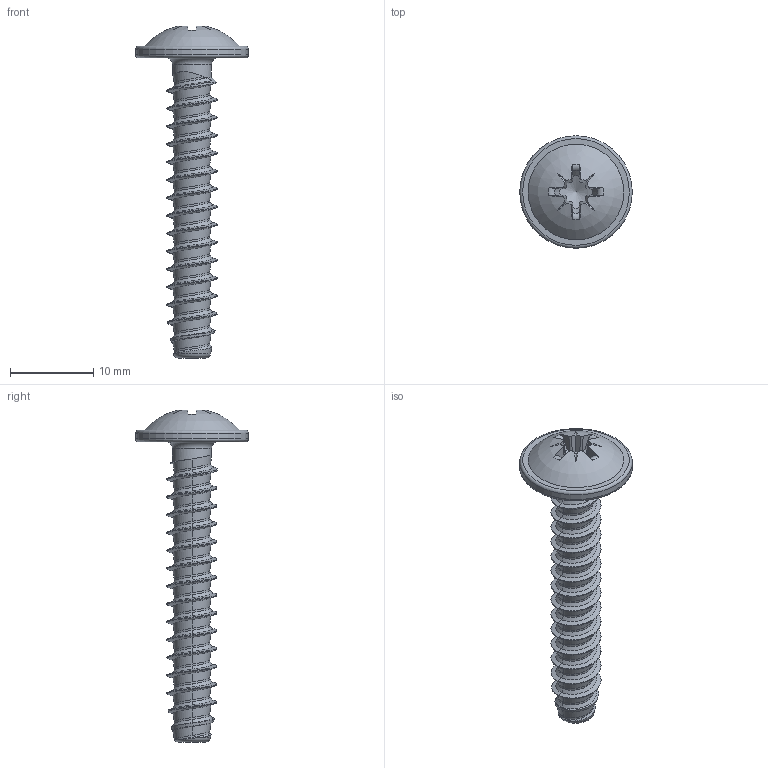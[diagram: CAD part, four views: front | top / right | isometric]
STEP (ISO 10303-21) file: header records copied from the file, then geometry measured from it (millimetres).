
FILE_DESCRIPTION(/* description */ (''),/* implementation_level */ '2;1');
FILE_NAME(/* name */ 'KN6031-STSplus-60x36-Z3.step',/* time_stamp */ '2017-10-09T17:06:36+02:00',/* author */ (''),/* organization */ (''),/* preprocessor_version */ 'ST-DEVELOPER v16',/* originating_system */ 'SIEMENS PLM Software NX 10.0',/* authorisation */ '');
FILE_SCHEMA (('AUTOMOTIVE_DESIGN { 1 0 10303 214 3 1 1 1 }'));
Length unit declared in the file: millimetre
Products named in the file (1): KN6031-STSplus-60x36-Z3
Bounding box: 13.5 x 13.5 x 39.83 mm (x, y, z)
Volume: 930.8 mm3; surface area: 1164.1 mm2
Topology: 1 solids, 1 shells, 138 faces, 336 edges, 201 vertices
Faces by surface type: bspline 84, plane 27, cylinder 11, torus 8, cone 7, sphere 1
Full cylindrical faces by diameter (mm): 4.68 x1, 13.5 x1
Entity records: 8637 total; most frequent: CARTESIAN_POINT 6020, ORIENTED_EDGE 644, EDGE_CURVE 322, DIRECTION 318, VERTEX_POINT 196, B_SPLINE_CURVE_WITH_KNOTS 162, EDGE_LOOP 147, ADVANCED_FACE 138
